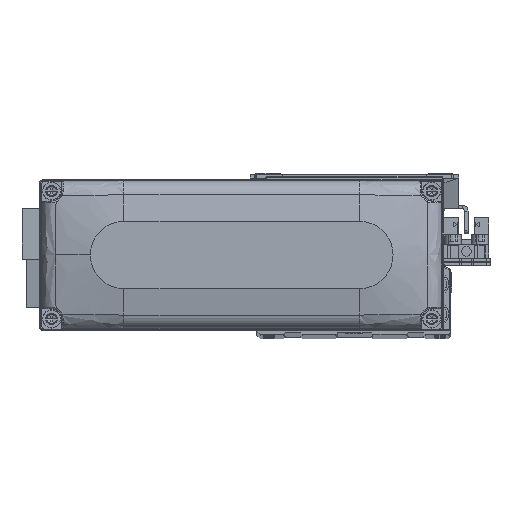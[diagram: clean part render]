
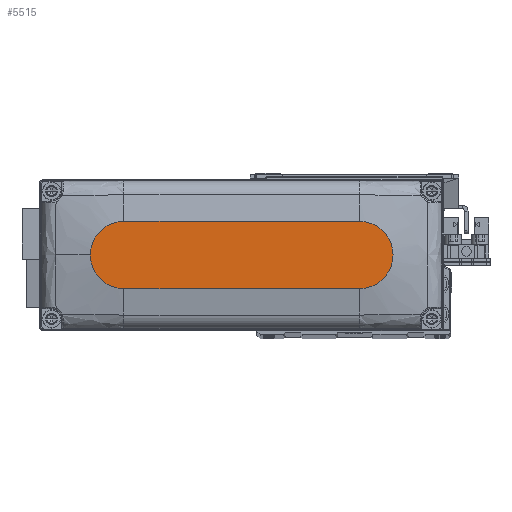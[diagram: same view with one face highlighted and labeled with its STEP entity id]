
A CAD part, top view. The second image highlights one B-rep face of the part: STEP entity #5515.
In plain terms, the highlighted planar face has unit normal (0, 0, 1).
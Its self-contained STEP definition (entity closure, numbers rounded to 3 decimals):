
#86 = CARTESIAN_POINT ( 'NONE',  ( 35., -10., 28. ) ) ;
#1275 = DIRECTION ( 'NONE',  ( 1., 0., 0. ) ) ;
#1526 = ORIENTED_EDGE ( 'NONE', *, *, #22993, .T. ) ;
#1654 = CARTESIAN_POINT ( 'NONE',  ( -35., 10., 28. ) ) ;
#1789 = DIRECTION ( 'NONE',  ( 0., 0., 1. ) ) ;
#2271 = CIRCLE ( 'NONE', #8042, 10. ) ;
#5162 = FACE_OUTER_BOUND ( 'NONE', #39273, .T. ) ;
#5515 = ADVANCED_FACE ( 'NONE', ( #5162 ), #18952, .T. ) ;
#7368 = CARTESIAN_POINT ( 'NONE',  ( -35., -10., 28. ) ) ;
#8042 = AXIS2_PLACEMENT_3D ( 'NONE', #41662, #10657, #24459 ) ;
#8087 = ORIENTED_EDGE ( 'NONE', *, *, #33353, .T. ) ;
#8561 = ORIENTED_EDGE ( 'NONE', *, *, #23301, .T. ) ;
#9703 = CARTESIAN_POINT ( 'NONE',  ( 35., 0., 28. ) ) ;
#10188 = VERTEX_POINT ( 'NONE', #26364 ) ;
#10657 = DIRECTION ( 'NONE',  ( 0., 0., 1. ) ) ;
#11015 = CARTESIAN_POINT ( 'NONE',  ( 45., 0., 28. ) ) ;
#14981 = CARTESIAN_POINT ( 'NONE',  ( 35., 0., 28. ) ) ;
#15442 = DIRECTION ( 'NONE',  ( -1., 0., 0. ) ) ;
#15566 = DIRECTION ( 'NONE',  ( 1., 0., 0. ) ) ;
#17099 = AXIS2_PLACEMENT_3D ( 'NONE', #32784, #1789, #15566 ) ;
#18441 = LINE ( 'NONE', #32267, #21183 ) ;
#18952 = PLANE ( 'NONE',  #17099 ) ;
#21183 = VECTOR ( 'NONE', #1275, 1000. ) ;
#21396 = AXIS2_PLACEMENT_3D ( 'NONE', #9703, #23514, #37315 ) ;
#22789 = CARTESIAN_POINT ( 'NONE',  ( 35., 10., 28. ) ) ;
#22993 = EDGE_CURVE ( 'NONE', #23446, #10188, #32638, .T. ) ;
#23301 = EDGE_CURVE ( 'NONE', #10188, #34050, #2271, .T. ) ;
#23446 = VERTEX_POINT ( 'NONE', #22789 ) ;
#23514 = DIRECTION ( 'NONE',  ( 0., 0., 1. ) ) ;
#24160 = AXIS2_PLACEMENT_3D ( 'NONE', #14981, #28778, #42583 ) ;
#24459 = DIRECTION ( 'NONE',  ( 1., 0., 0. ) ) ;
#26364 = CARTESIAN_POINT ( 'NONE',  ( -35., 10., 28. ) ) ;
#28778 = DIRECTION ( 'NONE',  ( 0., 0., 1. ) ) ;
#32267 = CARTESIAN_POINT ( 'NONE',  ( -35., -10., 28. ) ) ;
#32590 = VECTOR ( 'NONE', #15442, 1000. ) ;
#32638 = LINE ( 'NONE', #1654, #32590 ) ;
#32784 = CARTESIAN_POINT ( 'NONE',  ( 0., 0., 28. ) ) ;
#33353 = EDGE_CURVE ( 'NONE', #37320, #23446, #43678, .T. ) ;
#34050 = VERTEX_POINT ( 'NONE', #7368 ) ;
#35306 = EDGE_CURVE ( 'NONE', #40600, #37320, #40916, .T. ) ;
#37315 = DIRECTION ( 'NONE',  ( 1., 0., 0. ) ) ;
#37320 = VERTEX_POINT ( 'NONE', #11015 ) ;
#39140 = ORIENTED_EDGE ( 'NONE', *, *, #35306, .T. ) ;
#39273 = EDGE_LOOP ( 'NONE', ( #1526, #8561, #40950, #39140, #8087 ) ) ;
#40600 = VERTEX_POINT ( 'NONE', #86 ) ;
#40916 = CIRCLE ( 'NONE', #21396, 10. ) ;
#40950 = ORIENTED_EDGE ( 'NONE', *, *, #43369, .T. ) ;
#41662 = CARTESIAN_POINT ( 'NONE',  ( -35., 0., 28. ) ) ;
#42583 = DIRECTION ( 'NONE',  ( 1., 0., 0. ) ) ;
#43369 = EDGE_CURVE ( 'NONE', #34050, #40600, #18441, .T. ) ;
#43678 = CIRCLE ( 'NONE', #24160, 10. ) ;
